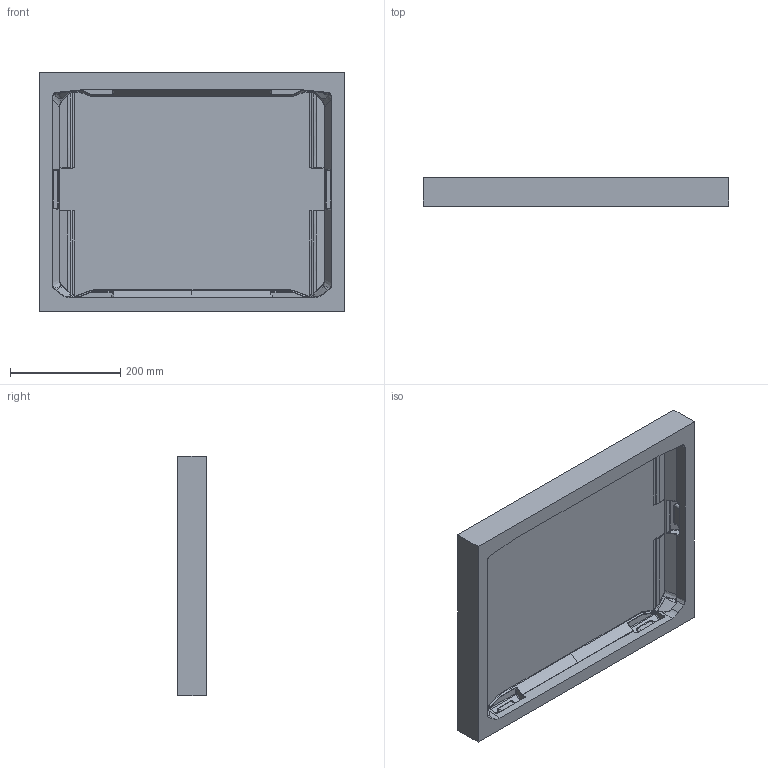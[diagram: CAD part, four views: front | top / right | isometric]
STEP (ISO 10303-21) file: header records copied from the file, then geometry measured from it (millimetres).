
FILE_DESCRIPTION (( 'STEP AP214' ), '1' );
FILE_NAME ('V550 PP TOP TUB 2-4-2024.STEP', '2024-02-12T04:17:54', ( '' ), ( '' ), 'SwSTEP 2.0', 'SolidWorks 2021', '' );
FILE_SCHEMA (( 'AUTOMOTIVE_DESIGN' ));
Length unit declared in the file: millimetre
Products named in the file (1): V550 PP TOP TUB 2-4-2024
Bounding box: 555.59 x 52.14 x 435.03 mm (x, y, z)
Volume: 5046293.1 mm3; surface area: 652806.8 mm2
Topology: 1 solids, 1 shells, 702 faces, 1665 edges, 942 vertices
Faces by surface type: bspline 615, plane 87
Entity records: 26834 total; most frequent: CARTESIAN_POINT 16405, ORIENTED_EDGE 3282, EDGE_CURVE 1641, VERTEX_POINT 942, B_SPLINE_CURVE_WITH_KNOTS 711, EDGE_LOOP 703, ADVANCED_FACE 702, FACE_OUTER_BOUND 702
